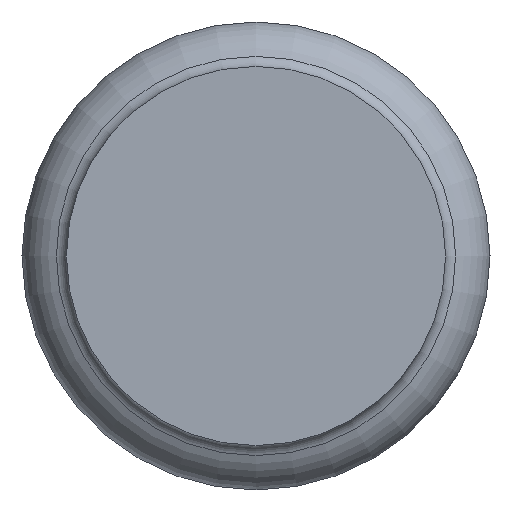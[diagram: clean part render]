
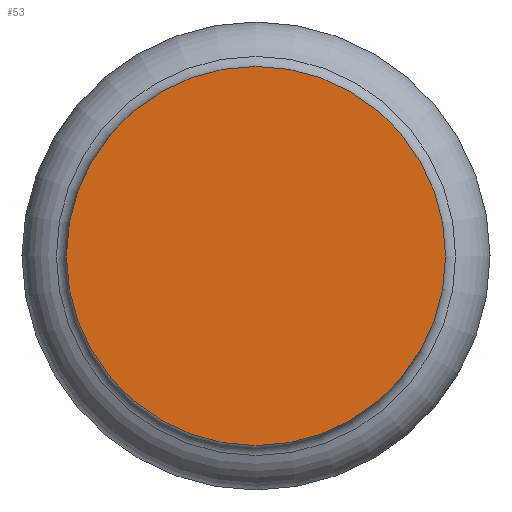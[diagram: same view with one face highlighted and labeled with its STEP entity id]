
A CAD part, front view. The second image highlights one B-rep face of the part: STEP entity #53.
In plain terms, the highlighted planar face has unit normal (0, -1, 0).
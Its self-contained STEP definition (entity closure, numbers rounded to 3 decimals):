
#53=ADVANCED_FACE('',(#64),#66,.T.);
#64=FACE_BOUND('',#65,.T.);
#65=EDGE_LOOP('',(#159));
#66=PLANE('',#67);
#67=AXIS2_PLACEMENT_3D('',#68,#69,#70);
#68=CARTESIAN_POINT('',(0.,-46.5,0.));
#69=DIRECTION('',(0.,-1.,0.));
#70=DIRECTION('',(0.,0.,1.));
#159=ORIENTED_EDGE('',*,*,#179,.F.);
#179=EDGE_CURVE('',#189,#189,#190,.T.);
#189=VERTEX_POINT('',#209);
#190=CIRCLE('',#210,12.6);
#209=CARTESIAN_POINT('',(0.,-46.5,12.6));
#210=AXIS2_PLACEMENT_3D('',#211,#212,#213);
#211=CARTESIAN_POINT('',(0.,-46.5,0.));
#212=DIRECTION('',(0.,1.,0.));
#213=DIRECTION('',(0.,0.,1.));
